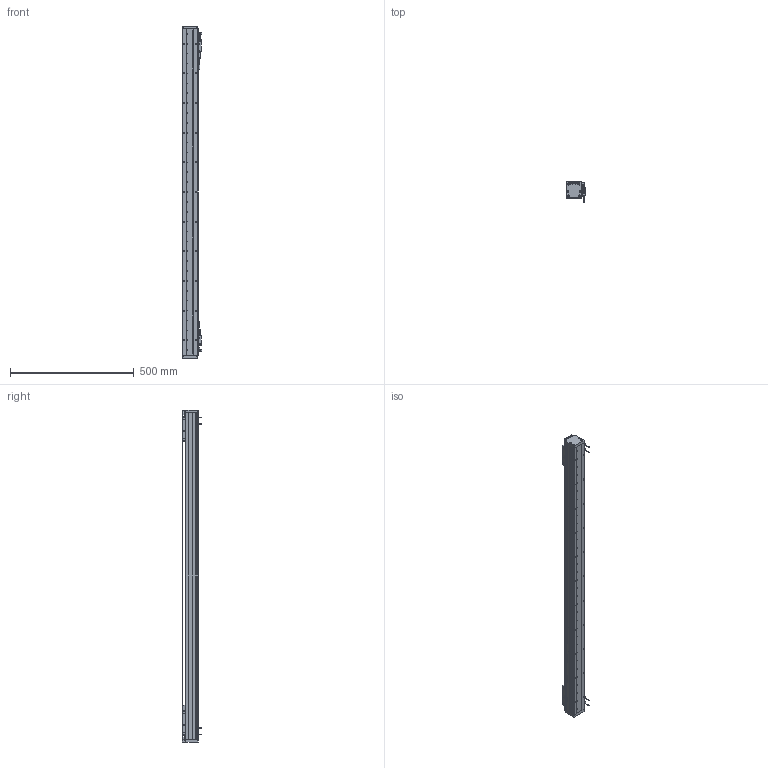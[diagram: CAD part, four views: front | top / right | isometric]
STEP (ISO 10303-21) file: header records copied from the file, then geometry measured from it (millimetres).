
FILE_DESCRIPTION (( 'STEP AP203' ), '1' );
FILE_NAME ('DA-A60-2-B1-T1080-C010-0.2 眻盄萇儂.STEP', '2025-08-13T01:25:44', ( '' ), ( '' ), 'SwSTEP 2.0', 'SolidWorks 2019', '' );
FILE_SCHEMA (( 'CONFIG_CONTROL_DESIGN' ));
Length unit declared in the file: millimetre
Products named in the file (30): 复件 DA60-GT-T-00 底座钢轨^AU60-L 底座导轨; 复件 DA60-B1-GT-00 滑块钢轨^DA60-YT-B1-HT-B-01 一体化滑动台板; 13679-0000-005-00 詩湍嶺輸; 葩璃 鞠褒情蹟譫 M3^DA-A60-2-B1-T60-C010-0.2-N(GB_FASTENER_NUT_STNAB M3-C); AU60-V 幗紩賑怢-1; 13679-0000-004-00 傷啣; DA60嶺詩湍郪璃-T1060; DA60-XJ-00 砎蝶結輸; 葩璃 AKM01-W030-TRL^DA-A60-2-B1-T60-C010-0.2-N; ｸｴｼ DA60-DMT-DTJ-ZJ-00 ﾖﾐｼ荼ﾁﾊﾍｷﾖｧｼﾜ^DA-A60-2-B1-T60-C010-0.2-N; 葩璃 DA60-DMT-DTJ-00 黍杅芛盓殤^DA-A60-2-B1-T60-C010-0.2-N; DA-A60-GD-1020-00 钢带盖板(默认); AU60-V 幗紩賑怢; DA60-YT-B1-HT-B-01 珨极趙賑雄怢啣-1; 13679-0000-006-00  钢带压块(默认); DA60-YT-B1-HT-B-01 珨极趙賑雄怢啣; AU60-L 菁釱絳寢; IU-AU60-L-00 菁釱(1320); 复件 DA60-HC-XJ-01 中间缓冲橡胶^DA-A60-2-B1-T60-C010-0.2-N; DA-A60-2-B1-T1080-C010-0.2 眻盄萇儂; DA60-B1-HT-B-03 賑雄怢啣; 葩璃 DMT-010 1米m 0.2M^DA-A60-2-B1-T60-C010-0.2-N; 葩璃 PM-T45^DA-A60-2-B1-T60-C010-0.2-N; ｸｴｼ BAKM01-W030-C1-TP-0.2 ﾖｱﾏﾟｵ扈巐ｯﾗﾓ^DA-A60-2-B1-T60-C010-0.2-N; 葩璃 XD-U-02  棠掑喜^DA-A60-2-B1-T60-C010-0.2-N; 葩璃 PM-Y65^DA-A60-2-B1-T60-C010-0.2-N; 葩璃 DA60-HK-DP-01 結え^AU60-V 幗紩賑怢; ｸｴｼ DA-A60-GYP-DMT-00 ｹ箏邵ﾐﾓｦﾆｬ^DA-A60-2-B1-T60-C010-0.2-N(ﾄｬﾈﾏ); 复件 纯铜油杯 6x6mm^AU60-V 滚珠滑台; ｸｴｼ DA60-GYP-ZJ-01 ﾖﾐｼ荵箏邵ﾐﾓｦﾆｬ^DA-A60-2-B1-T60-C010-0.2-N(ﾄｬﾈﾏ)
Assembly tree (56 placements, depth 4):
  DA-A60-2-B1-T1080-C010-0.2 眻盄萇儂
    AU60-L 菁釱絳寢
      IU-AU60-L-00 菁釱(1320)
      复件 DA60-GT-T-00 底座钢轨^AU60-L 底座导轨  x2
    AU60-V 幗紩賑怢
      DA60-YT-B1-HT-B-01 珨极趙賑雄怢啣
        DA60-B1-HT-B-03 賑雄怢啣
        复件 DA60-B1-GT-00 滑块钢轨^DA60-YT-B1-HT-B-01 一体化滑动台板  x2
      葩璃 DA60-HK-DP-01 結え^AU60-V 幗紩賑怢  x2
      复件 纯铜油杯 6x6mm^AU60-V 滚珠滑台
    AU60-V 幗紩賑怢-1
      DA60-YT-B1-HT-B-01 珨极趙賑雄怢啣-1
        DA60-B1-HT-B-03 賑雄怢啣
        复件 DA60-B1-GT-00 滑块钢轨^DA60-YT-B1-HT-B-01 一体化滑动台板  x2
      葩璃 DA60-HK-DP-01 結え^AU60-V 幗紩賑怢  x2
      复件 纯铜油杯 6x6mm^AU60-V 滚珠滑台
    DA60嶺詩湍郪璃-T1060
      13679-0000-006-00  钢带压块(默认)  x2
      DA-A60-GD-1020-00 钢带盖板(默认)
      13679-0000-004-00 傷啣  x2
      DA60-XJ-00 砎蝶結輸  x2
      13679-0000-005-00 詩湍嶺輸  x2
    ｸｴｼ DA60-DMT-DTJ-ZJ-00 ﾖﾐｼ荼ﾁﾊﾍｷﾖｧｼﾜ^DA-A60-2-B1-T60-C010-0.2-N
    葩璃 PM-Y65^DA-A60-2-B1-T60-C010-0.2-N
    复件 DA60-HC-XJ-01 中间缓冲橡胶^DA-A60-2-B1-T60-C010-0.2-N  x2
    ｸｴｼ DA60-GYP-ZJ-01 ﾖﾐｼ荵箏邵ﾐﾓｦﾆｬ^DA-A60-2-B1-T60-C010-0.2-N(ﾄｬﾈﾏ)
    ｸｴｼ DA-A60-GYP-DMT-00 ｹ箏邵ﾐﾓｦﾆｬ^DA-A60-2-B1-T60-C010-0.2-N(ﾄｬﾈﾏ)  x2
    葩璃 DA60-DMT-DTJ-00 黍杅芛盓殤^DA-A60-2-B1-T60-C010-0.2-N
    葩璃 DMT-010 1米m 0.2M^DA-A60-2-B1-T60-C010-0.2-N  x2
    ｸｴｼ BAKM01-W030-C1-TP-0.2 ﾖｱﾏﾟｵ扈巐ｯﾗﾓ^DA-A60-2-B1-T60-C010-0.2-N  x2
    葩璃 AKM01-W030-TRL^DA-A60-2-B1-T60-C010-0.2-N
    葩璃 PM-T45^DA-A60-2-B1-T60-C010-0.2-N  x4
    葩璃 XD-U-02  棠掑喜^DA-A60-2-B1-T60-C010-0.2-N
    葩璃 鞠褒情蹟譫 M3^DA-A60-2-B1-T60-C010-0.2-N(GB_FASTENER_NUT_STNAB M3-C)  x8
Bounding box: 76.95 x 80 x 1344 mm (x, y, z)
Volume: 2769734.2 mm3; surface area: 997506.8 mm2
Topology: 61 solids, 65 shells, 3121 faces, 8487 edges, 5400 vertices
Faces by surface type: plane 1528, cylinder 1281, cone 280, bspline 22, torus 8, sphere 2
Entity records: 77274 total; most frequent: CARTESIAN_POINT 17919, ORIENTED_EDGE 11820, DIRECTION 11258, EDGE_CURVE 5910, VERTEX_POINT 3846, AXIS2_PLACEMENT_3D 3846, VECTOR 3566, LINE 3566
